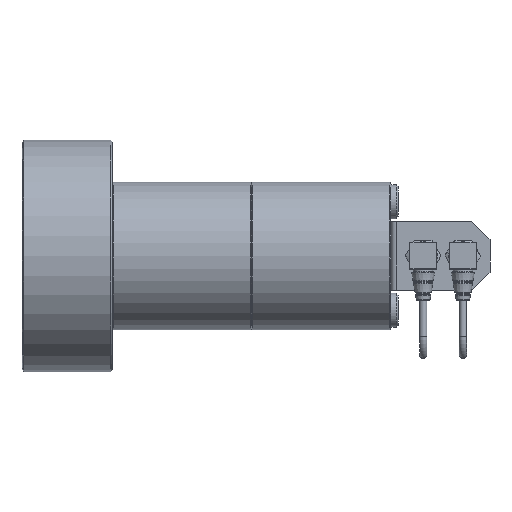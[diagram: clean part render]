
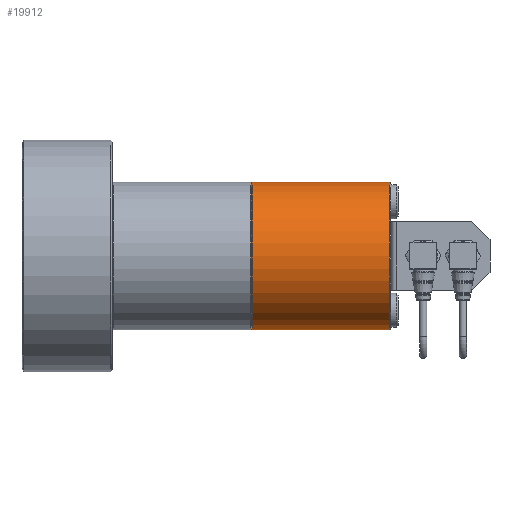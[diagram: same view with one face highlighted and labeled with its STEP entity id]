
A CAD part, top view. The second image highlights one B-rep face of the part: STEP entity #19912.
In plain terms, the highlighted cylindrical face has radius 40.95 mm (diameter 81.9 mm), a full revolution.
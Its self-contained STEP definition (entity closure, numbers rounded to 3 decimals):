
#2492=B_SPLINE_CURVE_WITH_KNOTS('',3,(#33015,#33016,#33017,#33018,#33019,
#33020,#33021,#33022,#33023,#33024,#33025,#33026,#33027,#33028,#33029,#33030,
#33031,#33032,#33033,#33034,#33035,#33036,#33037,#33038,#33039,#33040,#33041,
#33042,#33043,#33044,#33045,#33046,#33047,#33048),.UNSPECIFIED.,.T.,.F.,
(4,2,2,2,2,2,2,2,2,2,2,2,2,2,2,2,4),(0.,0.34,0.68,
1.019,1.358,1.701,2.045,2.385,
2.726,3.066,3.407,3.75,4.093,
4.432,4.771,5.111,5.451),
 .UNSPECIFIED.);
#2493=B_SPLINE_CURVE_WITH_KNOTS('',3,(#33050,#33051,#33052,#33053,#33054,
#33055,#33056,#33057,#33058,#33059,#33060,#33061,#33062,#33063,#33064,#33065,
#33066,#33067,#33068,#33069,#33070,#33071,#33072,#33073,#33074,#33075,#33076,
#33077,#33078,#33079,#33080,#33081,#33082,#33083),.UNSPECIFIED.,.T.,.F.,
(4,2,2,2,2,2,2,2,2,2,2,2,2,2,2,2,4),(0.,0.34,0.681,
1.024,1.368,1.707,2.046,2.386,
2.726,3.066,3.406,3.745,4.084,
4.427,4.77,5.111,5.451),
 .UNSPECIFIED.);
#3774=FACE_BOUND('',#6248,.T.);
#3775=FACE_BOUND('',#6249,.T.);
#3776=FACE_BOUND('',#6250,.T.);
#4714=FACE_OUTER_BOUND('',#6247,.T.);
#6247=EDGE_LOOP('',(#14401));
#6248=EDGE_LOOP('',(#14402));
#6249=EDGE_LOOP('',(#14403));
#6250=EDGE_LOOP('',(#14404));
#8020=CIRCLE('',#21584,40.95);
#8022=CIRCLE('',#21587,40.95);
#9242=VERTEX_POINT('',#33007);
#9244=VERTEX_POINT('',#33012);
#9245=VERTEX_POINT('',#33014);
#9246=VERTEX_POINT('',#33049);
#11256=EDGE_CURVE('',#9242,#9242,#8020,.T.);
#11258=EDGE_CURVE('',#9244,#9244,#8022,.T.);
#11259=EDGE_CURVE('',#9245,#9245,#2492,.T.);
#11260=EDGE_CURVE('',#9246,#9246,#2493,.T.);
#14401=ORIENTED_EDGE('',*,*,#11258,.F.);
#14402=ORIENTED_EDGE('',*,*,#11259,.T.);
#14403=ORIENTED_EDGE('',*,*,#11260,.T.);
#14404=ORIENTED_EDGE('',*,*,#11256,.F.);
#17905=CYLINDRICAL_SURFACE('',#21586,40.95);
#19912=ADVANCED_FACE('',(#4714,#3774,#3775,#3776),#17905,.T.);
#21584=AXIS2_PLACEMENT_3D('',#33008,#24843,#24844);
#21586=AXIS2_PLACEMENT_3D('',#33011,#24847,#24848);
#21587=AXIS2_PLACEMENT_3D('',#33013,#24849,#24850);
#24843=DIRECTION('center_axis',(1.,0.,0.));
#24844=DIRECTION('ref_axis',(0.,0.,
1.));
#24847=DIRECTION('center_axis',(1.,0.,0.));
#24848=DIRECTION('ref_axis',(0.,0.,
-1.));
#24849=DIRECTION('center_axis',(-1.,0.,0.));
#24850=DIRECTION('ref_axis',(0.,0.,
1.));
#33007=CARTESIAN_POINT('',(76.5,0.,-40.95));
#33008=CARTESIAN_POINT('Origin',(76.5,0.,0.));
#33011=CARTESIAN_POINT('Origin',(38.5,0.,0.));
#33012=CARTESIAN_POINT('',(0.5,0.,-40.95));
#33013=CARTESIAN_POINT('Origin',(0.5,0.,
0.));
#33014=CARTESIAN_POINT('',(27.,6.,-40.508));
#33015=CARTESIAN_POINT('Ctrl Pts',(27.,6.,-40.508));
#33016=CARTESIAN_POINT('Ctrl Pts',(25.867,6.,-40.508));
#33017=CARTESIAN_POINT('Ctrl Pts',(24.659,5.773,-40.544));
#33018=CARTESIAN_POINT('Ctrl Pts',(22.44,4.852,-40.664));
#33019=CARTESIAN_POINT('Ctrl Pts',(21.428,4.158,-40.746));
#33020=CARTESIAN_POINT('Ctrl Pts',(19.832,2.559,-40.878));
#33021=CARTESIAN_POINT('Ctrl Pts',(19.141,1.547,-40.936));
#33022=CARTESIAN_POINT('Ctrl Pts',(18.225,-0.669,
-40.96));
#33023=CARTESIAN_POINT('Ctrl Pts',(18.,-1.873,-40.923));
#33024=CARTESIAN_POINT('Ctrl Pts',(18.,-4.142,-40.756));
#33025=CARTESIAN_POINT('Ctrl Pts',(18.23,-5.352,-40.614));
#33026=CARTESIAN_POINT('Ctrl Pts',(19.155,-7.572,-40.26));
#33027=CARTESIAN_POINT('Ctrl Pts',(19.85,-8.581,-40.049));
#33028=CARTESIAN_POINT('Ctrl Pts',(21.443,-10.168,-39.676));
#33029=CARTESIAN_POINT('Ctrl Pts',(22.448,-10.856,-39.488));
#33030=CARTESIAN_POINT('Ctrl Pts',(24.659,-11.772,-39.224));
#33031=CARTESIAN_POINT('Ctrl Pts',(25.865,-12.,-39.152));
#33032=CARTESIAN_POINT('Ctrl Pts',(28.135,-12.,-39.152));
#33033=CARTESIAN_POINT('Ctrl Pts',(29.341,-11.772,-39.224));
#33034=CARTESIAN_POINT('Ctrl Pts',(31.552,-10.856,-39.488));
#33035=CARTESIAN_POINT('Ctrl Pts',(32.557,-10.168,-39.676));
#33036=CARTESIAN_POINT('Ctrl Pts',(34.15,-8.581,-40.049));
#33037=CARTESIAN_POINT('Ctrl Pts',(34.845,-7.572,-40.26));
#33038=CARTESIAN_POINT('Ctrl Pts',(35.77,-5.352,-40.614));
#33039=CARTESIAN_POINT('Ctrl Pts',(36.,-4.142,-40.756));
#33040=CARTESIAN_POINT('Ctrl Pts',(36.,-1.873,-40.923));
#33041=CARTESIAN_POINT('Ctrl Pts',(35.775,-0.669,
-40.96));
#33042=CARTESIAN_POINT('Ctrl Pts',(34.859,1.547,-40.936));
#33043=CARTESIAN_POINT('Ctrl Pts',(34.168,2.559,-40.878));
#33044=CARTESIAN_POINT('Ctrl Pts',(32.572,4.158,-40.746));
#33045=CARTESIAN_POINT('Ctrl Pts',(31.56,4.852,-40.664));
#33046=CARTESIAN_POINT('Ctrl Pts',(29.341,5.773,-40.544));
#33047=CARTESIAN_POINT('Ctrl Pts',(28.133,6.,-40.508));
#33048=CARTESIAN_POINT('Ctrl Pts',(27.,6.,-40.508));
#33049=CARTESIAN_POINT('',(47.,12.,-39.152));
#33050=CARTESIAN_POINT('Ctrl Pts',(47.,12.,-39.152));
#33051=CARTESIAN_POINT('Ctrl Pts',(45.865,12.,-39.152));
#33052=CARTESIAN_POINT('Ctrl Pts',(44.659,11.772,-39.224));
#33053=CARTESIAN_POINT('Ctrl Pts',(42.448,10.856,-39.488));
#33054=CARTESIAN_POINT('Ctrl Pts',(41.443,10.168,-39.676));
#33055=CARTESIAN_POINT('Ctrl Pts',(39.85,8.581,-40.049));
#33056=CARTESIAN_POINT('Ctrl Pts',(39.155,7.572,-40.26));
#33057=CARTESIAN_POINT('Ctrl Pts',(38.23,5.352,-40.614));
#33058=CARTESIAN_POINT('Ctrl Pts',(38.,4.142,-40.756));
#33059=CARTESIAN_POINT('Ctrl Pts',(38.,1.873,-40.923));
#33060=CARTESIAN_POINT('Ctrl Pts',(38.225,0.669,-40.96));
#33061=CARTESIAN_POINT('Ctrl Pts',(39.141,-1.547,-40.936));
#33062=CARTESIAN_POINT('Ctrl Pts',(39.832,-2.559,-40.878));
#33063=CARTESIAN_POINT('Ctrl Pts',(41.428,-4.158,-40.746));
#33064=CARTESIAN_POINT('Ctrl Pts',(42.44,-4.852,-40.664));
#33065=CARTESIAN_POINT('Ctrl Pts',(44.659,-5.773,-40.544));
#33066=CARTESIAN_POINT('Ctrl Pts',(45.867,-6.,-40.508));
#33067=CARTESIAN_POINT('Ctrl Pts',(48.133,-6.,-40.508));
#33068=CARTESIAN_POINT('Ctrl Pts',(49.341,-5.773,-40.544));
#33069=CARTESIAN_POINT('Ctrl Pts',(51.56,-4.852,-40.664));
#33070=CARTESIAN_POINT('Ctrl Pts',(52.572,-4.158,-40.746));
#33071=CARTESIAN_POINT('Ctrl Pts',(54.168,-2.559,-40.878));
#33072=CARTESIAN_POINT('Ctrl Pts',(54.859,-1.547,-40.936));
#33073=CARTESIAN_POINT('Ctrl Pts',(55.775,0.669,-40.96));
#33074=CARTESIAN_POINT('Ctrl Pts',(56.,1.873,-40.923));
#33075=CARTESIAN_POINT('Ctrl Pts',(56.,4.142,-40.756));
#33076=CARTESIAN_POINT('Ctrl Pts',(55.77,5.352,-40.614));
#33077=CARTESIAN_POINT('Ctrl Pts',(54.845,7.572,-40.26));
#33078=CARTESIAN_POINT('Ctrl Pts',(54.15,8.581,-40.049));
#33079=CARTESIAN_POINT('Ctrl Pts',(52.557,10.168,-39.676));
#33080=CARTESIAN_POINT('Ctrl Pts',(51.552,10.856,-39.488));
#33081=CARTESIAN_POINT('Ctrl Pts',(49.341,11.772,-39.224));
#33082=CARTESIAN_POINT('Ctrl Pts',(48.135,12.,-39.152));
#33083=CARTESIAN_POINT('Ctrl Pts',(47.,12.,-39.152));
